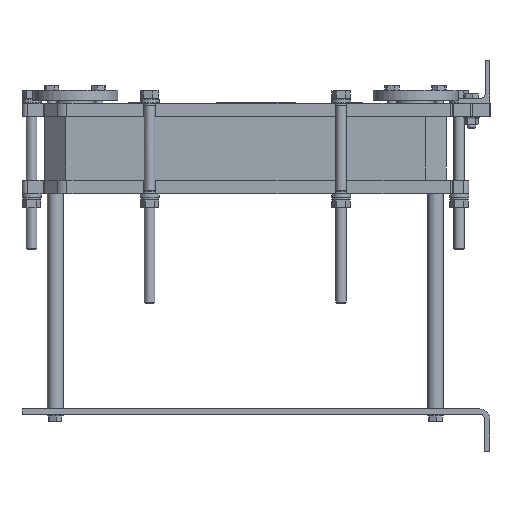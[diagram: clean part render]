
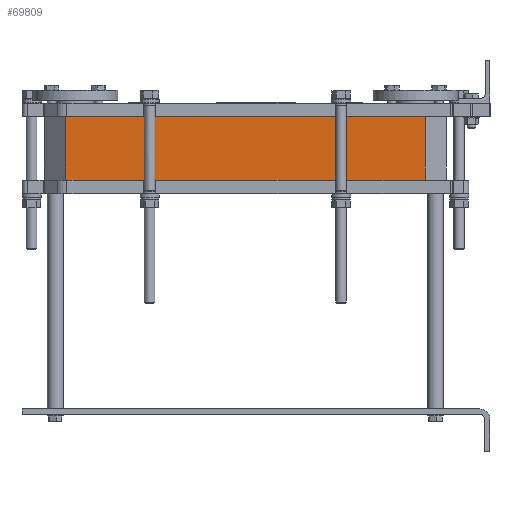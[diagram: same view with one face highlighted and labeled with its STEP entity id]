
A CAD part, left-side view. The second image highlights one B-rep face of the part: STEP entity #69809.
In plain terms, the highlighted planar face has unit normal (-1, 0, 0).
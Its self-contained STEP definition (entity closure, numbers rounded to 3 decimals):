
#6264 = CARTESIAN_POINT ( 'NONE',  ( 29.6, 122.041, -104.9 ) ) ;
#9775 = EDGE_CURVE ( 'NONE', #69729, #65069, #87226, .T. ) ;
#15178 = LINE ( 'NONE', #78871, #22268 ) ;
#16546 = VERTEX_POINT ( 'NONE', #6264 ) ;
#19082 = VECTOR ( 'NONE', #70220, 1000. ) ;
#22268 = VECTOR ( 'NONE', #78562, 1000. ) ;
#22279 = PLANE ( 'NONE',  #29557 ) ;
#23572 = CARTESIAN_POINT ( 'NONE',  ( 29.6, 122.041, -104.9 ) ) ;
#23704 = VECTOR ( 'NONE', #76945, 1000. ) ;
#26049 = EDGE_LOOP ( 'NONE', ( #47720, #67944, #94864, #40360 ) ) ;
#29557 = AXIS2_PLACEMENT_3D ( 'NONE', #23572, #74995, #30525 ) ;
#30525 = DIRECTION ( 'NONE',  ( 0., 1., 0. ) ) ;
#40360 = ORIENTED_EDGE ( 'NONE', *, *, #51329, .F. ) ;
#41365 = LINE ( 'NONE', #63060, #23704 ) ;
#47720 = ORIENTED_EDGE ( 'NONE', *, *, #81347, .F. ) ;
#49271 = FACE_OUTER_BOUND ( 'NONE', #26049, .T. ) ;
#50407 = CARTESIAN_POINT ( 'NONE',  ( 29.6, 817., -224.9 ) ) ;
#51329 = EDGE_CURVE ( 'NONE', #16546, #69729, #15178, .T. ) ;
#58219 = CARTESIAN_POINT ( 'NONE',  ( 29.6, 797.959, -224.9 ) ) ;
#63060 = CARTESIAN_POINT ( 'NONE',  ( 29.6, 797.959, -104.9 ) ) ;
#65069 = VERTEX_POINT ( 'NONE', #58219 ) ;
#67944 = ORIENTED_EDGE ( 'NONE', *, *, #77037, .T. ) ;
#69729 = VERTEX_POINT ( 'NONE', #91065 ) ;
#69809 = ADVANCED_FACE ( 'NONE', ( #49271 ), #22279, .T. ) ;
#70220 = DIRECTION ( 'NONE',  ( 0., -1., 0. ) ) ;
#74995 = DIRECTION ( 'NONE',  ( -1., 0., 0. ) ) ;
#76367 = CARTESIAN_POINT ( 'NONE',  ( 29.6, 797.959, -104.9 ) ) ;
#76719 = VECTOR ( 'NONE', #90887, 1000. ) ;
#76945 = DIRECTION ( 'NONE',  ( 0., 0., -1. ) ) ;
#77037 = EDGE_CURVE ( 'NONE', #85965, #65069, #41365, .T. ) ;
#78562 = DIRECTION ( 'NONE',  ( 0., 0., -1. ) ) ;
#78871 = CARTESIAN_POINT ( 'NONE',  ( 29.6, 122.041, -104.9 ) ) ;
#81347 = EDGE_CURVE ( 'NONE', #85965, #16546, #95593, .T. ) ;
#85658 = CARTESIAN_POINT ( 'NONE',  ( 29.6, 817., -104.9 ) ) ;
#85965 = VERTEX_POINT ( 'NONE', #76367 ) ;
#87226 = LINE ( 'NONE', #50407, #76719 ) ;
#90887 = DIRECTION ( 'NONE',  ( 0., 1., 0. ) ) ;
#91065 = CARTESIAN_POINT ( 'NONE',  ( 29.6, 122.041, -224.9 ) ) ;
#94864 = ORIENTED_EDGE ( 'NONE', *, *, #9775, .F. ) ;
#95593 = LINE ( 'NONE', #85658, #19082 ) ;
